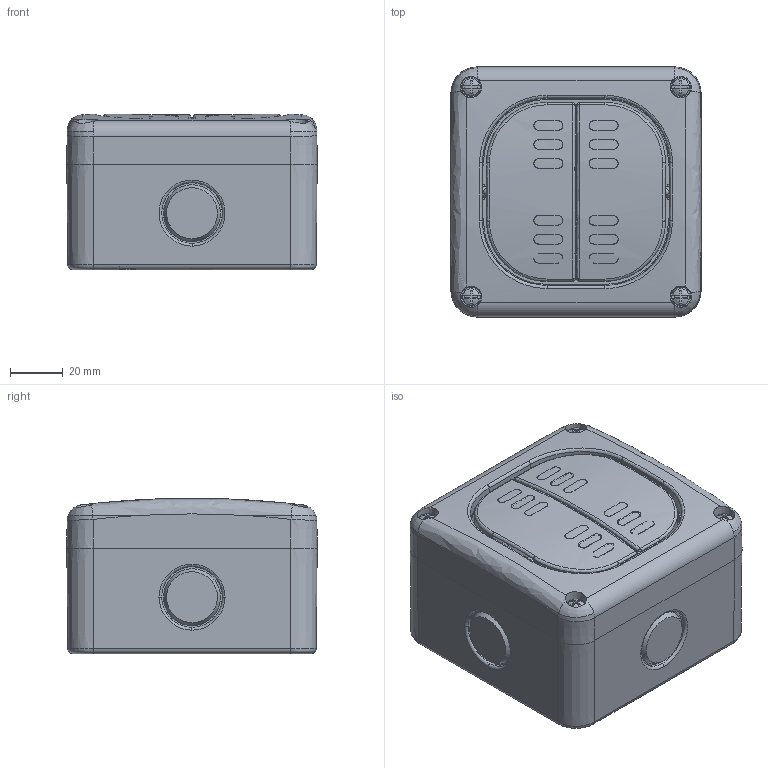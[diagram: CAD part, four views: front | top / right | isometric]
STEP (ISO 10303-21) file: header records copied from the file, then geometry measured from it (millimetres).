
FILE_DESCRIPTION(/* description */ (''),/* implementation_level */ '2;1');
FILE_NAME(/* name */ '4001490.stp',/* time_stamp */ '2016-09-22T09:58:35+02:00',/* author */ (''),/* organization */ (''),/* preprocessor_version */ 'ST-DEVELOPER v16',/* originating_system */ 'SIEMENS PLM Software NX 11.0',/* authorisation */ '');
FILE_SCHEMA (('AUTOMOTIVE_DESIGN { 1 0 10303 214 3 1 1 1 }'));
Length unit declared in the file: millimetre
Products named in the file (1): 4001490_LINKEDEXT_jt
Bounding box: 95 x 95 x 59 mm (x, y, z)
Surface area: 46024.4 mm2 (no closed solid volume)
Topology: 0 solids, 49 shells, 261 faces, 994 edges, 762 vertices
Faces by surface type: plane 70, bspline 66, cylinder 53, cone 34, sphere 20, torus 18
Full cylindrical faces by diameter (mm): 4 x2
Entity records: 18171 total; most frequent: CARTESIAN_POINT 8660, DIRECTION 1414, ORIENTED_EDGE 1328, EDGE_CURVE 942, VERTEX_POINT 744, AXIS2_PLACEMENT_3D 496, LINE 422, VECTOR 422
